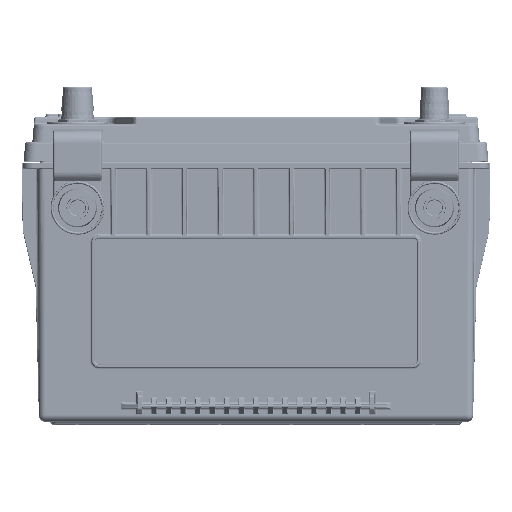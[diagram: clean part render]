
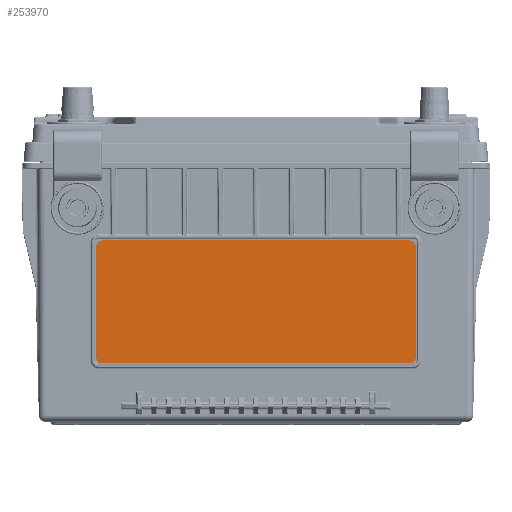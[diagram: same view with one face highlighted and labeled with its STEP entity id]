
A CAD part, top view. The second image highlights one B-rep face of the part: STEP entity #253970.
In plain terms, the highlighted planar face has unit normal (0, -0.009, 1).
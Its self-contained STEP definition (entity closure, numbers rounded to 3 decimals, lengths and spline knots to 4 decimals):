
#314 = EDGE_CURVE ( 'NONE', #145333, #282207, #47058, .T. ) ;
#962 = VERTEX_POINT ( 'NONE', #184857 ) ;
#2390 = CARTESIAN_POINT ( 'NONE',  ( 3.57, -1.8058, 3.1738 ) ) ;
#5654 = ORIENTED_EDGE ( 'NONE', *, *, #314, .T. ) ;
#11382 = CARTESIAN_POINT ( 'NONE',  ( 3.7, -1.8058, 3.1738 ) ) ;
#15558 = DIRECTION ( 'NONE',  ( 0., -0.009, 1. ) ) ;
#17021 = DIRECTION ( 'NONE',  ( -1., 0., 0. ) ) ;
#18846 = EDGE_CURVE ( 'NONE', #83560, #145568, #208330, .T. ) ;
#22816 = LINE ( 'NONE', #250807, #269348 ) ;
#33828 = CIRCLE ( 'NONE', #188101, 0.13 ) ;
#47058 = CIRCLE ( 'NONE', #225549, 0.13 ) ;
#48309 = ORIENTED_EDGE ( 'NONE', *, *, #18846, .T. ) ;
#55847 = ORIENTED_EDGE ( 'NONE', *, *, #61929, .T. ) ;
#60638 = VECTOR ( 'NONE', #180951, 39.3701 ) ;
#61186 = DIRECTION ( 'NONE',  ( 0., -1., -0.009 ) ) ;
#61929 = EDGE_CURVE ( 'NONE', #145568, #145333, #176005, .T. ) ;
#62654 = CARTESIAN_POINT ( 'NONE',  ( -3.57, -4.5257, 3.15 ) ) ;
#65274 = EDGE_CURVE ( 'NONE', #962, #125846, #186763, .T. ) ;
#71716 = FACE_OUTER_BOUND ( 'NONE', #182148, .T. ) ;
#71938 = CARTESIAN_POINT ( 'NONE',  ( 3.7, -1.8058, 3.1738 ) ) ;
#77841 = DIRECTION ( 'NONE',  ( -1., 0., 0. ) ) ;
#79594 = CARTESIAN_POINT ( 'NONE',  ( 3.57, -1.6758, 3.1749 ) ) ;
#83560 = VERTEX_POINT ( 'NONE', #85692 ) ;
#85692 = CARTESIAN_POINT ( 'NONE',  ( -3.57, -1.6758, 3.1749 ) ) ;
#91623 = CARTESIAN_POINT ( 'NONE',  ( -3.7, -1.8058, 3.1738 ) ) ;
#92594 = AXIS2_PLACEMENT_3D ( 'NONE', #110881, #272399, #113873 ) ;
#97366 = DIRECTION ( 'NONE',  ( 0., -0.009, 1. ) ) ;
#99141 = CIRCLE ( 'NONE', #181089, 0.13 ) ;
#100180 = CARTESIAN_POINT ( 'NONE',  ( -3.7, -4.3957, 3.1512 ) ) ;
#101998 = DIRECTION ( 'NONE',  ( 0., -0.009, 1. ) ) ;
#110881 = CARTESIAN_POINT ( 'NONE',  ( -3.57, -1.8058, 3.1738 ) ) ;
#113873 = DIRECTION ( 'NONE',  ( -1., 0., 0. ) ) ;
#114111 = DIRECTION ( 'NONE',  ( -1., 0., 0. ) ) ;
#114330 = DIRECTION ( 'NONE',  ( 0., 1., 0.009 ) ) ;
#121803 = ORIENTED_EDGE ( 'NONE', *, *, #244669, .T. ) ;
#125846 = VERTEX_POINT ( 'NONE', #11382 ) ;
#128356 = AXIS2_PLACEMENT_3D ( 'NONE', #2390, #97366, #114111 ) ;
#145333 = VERTEX_POINT ( 'NONE', #100180 ) ;
#145568 = VERTEX_POINT ( 'NONE', #91623 ) ;
#147160 = ORIENTED_EDGE ( 'NONE', *, *, #264722, .T. ) ;
#155278 = CARTESIAN_POINT ( 'NONE',  ( 3.57, -1.6758, 3.1749 ) ) ;
#155777 = ORIENTED_EDGE ( 'NONE', *, *, #65274, .T. ) ;
#174118 = CARTESIAN_POINT ( 'NONE',  ( 3.57, -1.8058, 3.1738 ) ) ;
#174441 = CARTESIAN_POINT ( 'NONE',  ( -3.57, -4.3957, 3.1512 ) ) ;
#176005 = LINE ( 'NONE', #268051, #237803 ) ;
#179020 = VECTOR ( 'NONE', #114330, 39.3701 ) ;
#180951 = DIRECTION ( 'NONE',  ( -1., 0., 0. ) ) ;
#181089 = AXIS2_PLACEMENT_3D ( 'NONE', #264466, #213207, #285614 ) ;
#182148 = EDGE_LOOP ( 'NONE', ( #147160, #240187, #48309, #55847, #5654, #235807, #121803, #155777 ) ) ;
#184857 = CARTESIAN_POINT ( 'NONE',  ( 3.7, -4.3957, 3.1512 ) ) ;
#186763 = LINE ( 'NONE', #71938, #179020 ) ;
#188101 = AXIS2_PLACEMENT_3D ( 'NONE', #174118, #15558, #17021 ) ;
#189505 = PLANE ( 'NONE',  #128356 ) ;
#190863 = EDGE_CURVE ( 'NONE', #282207, #265177, #22816, .T. ) ;
#196413 = CARTESIAN_POINT ( 'NONE',  ( 3.57, -4.5257, 3.15 ) ) ;
#200624 = LINE ( 'NONE', #155278, #60638 ) ;
#208330 = CIRCLE ( 'NONE', #92594, 0.13 ) ;
#213207 = DIRECTION ( 'NONE',  ( 0., -0.009, 1. ) ) ;
#225549 = AXIS2_PLACEMENT_3D ( 'NONE', #174441, #101998, #77841 ) ;
#227532 = VERTEX_POINT ( 'NONE', #79594 ) ;
#235807 = ORIENTED_EDGE ( 'NONE', *, *, #190863, .T. ) ;
#237803 = VECTOR ( 'NONE', #61186, 39.3701 ) ;
#240187 = ORIENTED_EDGE ( 'NONE', *, *, #253144, .T. ) ;
#244669 = EDGE_CURVE ( 'NONE', #265177, #962, #99141, .T. ) ;
#250807 = CARTESIAN_POINT ( 'NONE',  ( 3.57, -4.5257, 3.15 ) ) ;
#253144 = EDGE_CURVE ( 'NONE', #227532, #83560, #200624, .T. ) ;
#253779 = DIRECTION ( 'NONE',  ( 1., 0., 0. ) ) ;
#253970 = ADVANCED_FACE ( 'NONE', ( #71716 ), #189505, .T. ) ;
#264466 = CARTESIAN_POINT ( 'NONE',  ( 3.57, -4.3957, 3.1512 ) ) ;
#264722 = EDGE_CURVE ( 'NONE', #125846, #227532, #33828, .T. ) ;
#265177 = VERTEX_POINT ( 'NONE', #196413 ) ;
#268051 = CARTESIAN_POINT ( 'NONE',  ( -3.7, -1.8058, 3.1738 ) ) ;
#269348 = VECTOR ( 'NONE', #253779, 39.3701 ) ;
#272399 = DIRECTION ( 'NONE',  ( 0., -0.009, 1. ) ) ;
#282207 = VERTEX_POINT ( 'NONE', #62654 ) ;
#285614 = DIRECTION ( 'NONE',  ( 1., 0., 0. ) ) ;
